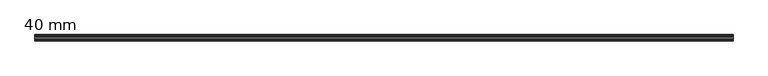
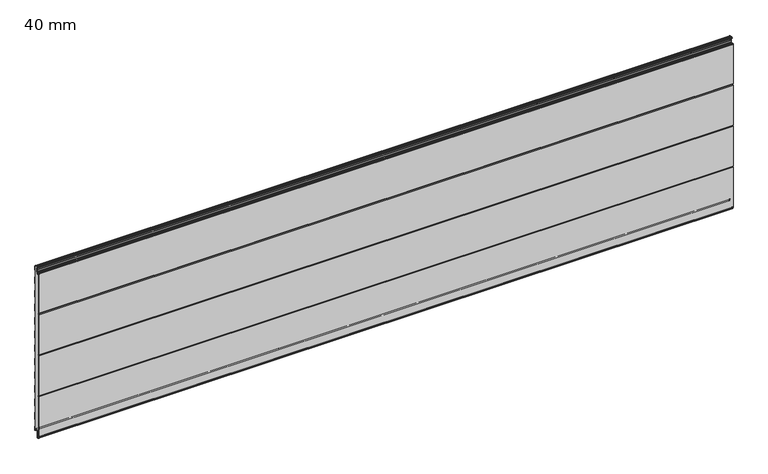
"""IFC4 building model written with IfcOpenShell, lengths in millimetres: plate geometry, HIANSA PANEL - H20.F02.003-PANELES DE FACHADA HORIZONTAL - PANEL SEMILISO - Panel de Muro Cortina : 40 mm."""

from ifc_helpers import new_model, si_unit, point, frame, frame_2d, origin, place, context, project, spatial, polyline, circle_curve, trimmed, segment, composite_curve, outline, extrude, source, transform, mapped, element, save


def plate_40_mm_44f672c6(model_context):
    return source(origin(), model_context, "Body", "SweptSolid", [
        extrude(outline(polyline([(-23.7988607, 1122.7800953), (-23.0080812, 1123.2810465), (-13.7002601, 1123.2810465), (-12.8994274, 1122.7800953), (-23.7988607, 1122.7800953)])), frame((-2200.0, 0.0, 0.0), z_axis=(1.0, 0.0, 0.0), x_axis=(0.0, 1.0, 0.0)), (0.0, 0.0, 1.0), 4400.0),
        extrude(outline(polyline([(-23.7713844, 25.3200953), (-12.9220626, 25.3200953), (-13.7002597, 24.8210465), (-23.011032, 24.8210465), (-23.7713844, 25.3200953)])), frame((-2200.0, 0.0, 0.0), z_axis=(1.0, 0.0, 0.0), x_axis=(0.0, 1.0, 0.0)), (0.0, 0.0, 1.0), 4400.0),
        extrude(outline(composite_curve([segment(polyline([(-39.9990488, 261.2060325), (-38.4829198, 265.1645587), (-39.9990488, 269.1230849), (-39.9990488, 536.2060325), (-38.4829198, 540.1645587), (-39.9990488, 544.1230849), (-39.9990488, 811.2060325), (-38.4829198, 815.1645587), (-39.9990488, 819.1230849), (-39.9990488, 1086.1667807), (-39.3593999, 1088.7253764)]), True, "CONTINUOUS"), segment(trimmed(circle_curve(frame_2d((-37.5161291, 1088.2645587)), 1.9), [point((-39.3593999, 1088.7253764))], [point((-37.5161291, 1090.1645587))], False, "CARTESIAN"), True, "CONTINUOUS"), segment(polyline([(-37.5161291, 1090.1645587), (-35.3767084, 1090.1645587)]), True, "CONTINUOUS"), segment(trimmed(circle_curve(frame_2d((-35.3767084, 1089.1645587)), 1.0), [point((-35.3767084, 1090.1645587))], [point((-34.3767084, 1089.1645587))], False, "CARTESIAN"), True, "CONTINUOUS"), segment(polyline([(-34.3767084, 1089.1645587), (-34.3767084, 1079.2490488)]), True, "CONTINUOUS"), segment(trimmed(circle_curve(frame_2d((-33.3767084, 1079.2490488)), 1.0), [point((-34.3767084, 1079.2490488))], [point((-33.3767084, 1078.2490488))], True, "CARTESIAN"), True, "CONTINUOUS"), segment(polyline([(-33.3767084, 1078.2490488), (-29.1267084, 1078.2490488)]), True, "CONTINUOUS"), segment(trimmed(circle_curve(frame_2d((-29.1267084, 1079.2490488)), 1.0), [point((-29.1267084, 1078.2490488))], [point((-28.1267084, 1079.2490488))], True, "CARTESIAN"), True, "CONTINUOUS"), segment(polyline([(-28.1267084, 1079.2490488), (-28.1267084, 1082.1003519)]), True, "CONTINUOUS"), segment(trimmed(circle_curve(frame_2d((-26.1267084, 1082.1003519)), 2.0), [point((-28.1267084, 1082.1003519))], [point((-27.2738613, 1083.738656))], False, "CARTESIAN"), True, "CONTINUOUS"), segment(polyline([(-27.2738613, 1083.738656), (-21.2163437, 1087.9801754)]), True, "CONTINUOUS"), segment(trimmed(circle_curve(frame_2d((-22.0767084, 1089.2089035)), 1.5), [point((-21.2163437, 1087.9801754))], [point((-20.5767084, 1089.2089035))], True, "CARTESIAN"), True, "CONTINUOUS"), segment(polyline([(-20.5767084, 1089.2089035), (-20.5767084, 1098.4402031), (-19.6767084, 1099.9990488), (-20.5767084, 1101.5578945), (-20.5767084, 1110.7891941)]), True, "CONTINUOUS"), segment(trimmed(circle_curve(frame_2d((-22.0767084, 1110.7891941)), 1.5), [point((-20.5767084, 1110.7891941))], [point((-21.2163437, 1112.0179221))], True, "CARTESIAN"), True, "CONTINUOUS"), segment(polyline([(-21.2163437, 1112.0179221), (-27.2738613, 1116.2594416)]), True, "CONTINUOUS"), segment(trimmed(circle_curve(frame_2d((-26.1267084, 1117.8977457)), 2.0), [point((-27.2738613, 1116.2594416))], [point((-28.1267084, 1117.8977457))], False, "CARTESIAN"), True, "CONTINUOUS"), segment(polyline([(-28.1267084, 1117.8977457), (-28.1267084, 1121.2800953)]), True, "CONTINUOUS"), segment(trimmed(circle_curve(frame_2d((-26.1267084, 1121.2800953)), 2.0), [point((-28.1267084, 1121.2800953))], [point((-26.1267084, 1123.2800953))], False, "CARTESIAN"), True, "CONTINUOUS"), segment(polyline([(-26.1267084, 1123.2800953), (-23.0095828, 1123.2800953), (-23.7988607, 1122.7800953), (-26.1267084, 1122.7800953)]), True, "CONTINUOUS"), segment(trimmed(circle_curve(frame_2d((-26.1267084, 1121.2800953)), 1.5), [point((-26.1267084, 1122.7800953))], [point((-27.6267084, 1121.2800953))], True, "CARTESIAN"), True, "CONTINUOUS"), segment(polyline([(-27.6267084, 1121.2800953), (-27.6267084, 1117.8977457)]), True, "CONTINUOUS"), segment(trimmed(circle_curve(frame_2d((-26.1267084, 1117.8977457)), 1.5), [point((-27.6267084, 1117.8977457))], [point((-26.987073, 1116.6690176))], True, "CARTESIAN"), True, "CONTINUOUS"), segment(polyline([(-26.987073, 1116.6690176), (-20.9295555, 1112.4274982)]), True, "CONTINUOUS"), segment(trimmed(circle_curve(frame_2d((-22.0767084, 1110.7891941)), 2.0), [point((-20.9295555, 1112.4274982))], [point((-20.0767084, 1110.7891941))], False, "CARTESIAN"), True, "CONTINUOUS"), segment(polyline([(-20.0767084, 1110.7891941), (-20.0767084, 1101.6918691), (-19.3880333, 1100.4990488)]), True, "CONTINUOUS"), segment(trimmed(circle_curve(frame_2d((-20.2540587, 1099.9990488)), 1.0), [point((-19.3880333, 1100.4990488))], [point((-19.3880333, 1099.4990488))], False, "CARTESIAN"), True, "CONTINUOUS"), segment(polyline([(-19.3880333, 1099.4990488), (-20.0767084, 1098.3062285), (-20.0767084, 1089.2089035)]), True, "CONTINUOUS"), segment(trimmed(circle_curve(frame_2d((-22.0767084, 1089.2089035)), 2.0), [point((-20.0767084, 1089.2089035))], [point((-20.9295555, 1087.5705994))], False, "CARTESIAN"), True, "CONTINUOUS"), segment(polyline([(-20.9295555, 1087.5705994), (-26.987073, 1083.32908)]), True, "CONTINUOUS"), segment(trimmed(circle_curve(frame_2d((-26.1267084, 1082.1003519)), 1.5), [point((-26.987073, 1083.32908))], [point((-27.6267084, 1082.1003519))], True, "CARTESIAN"), True, "CONTINUOUS"), segment(polyline([(-27.6267084, 1082.1003519), (-27.6267084, 1079.2490488)]), True, "CONTINUOUS"), segment(trimmed(circle_curve(frame_2d((-29.1267084, 1079.2490488)), 1.5), [point((-27.6267084, 1079.2490488))], [point((-29.1267084, 1077.7490488))], False, "CARTESIAN"), True, "CONTINUOUS"), segment(polyline([(-29.1267084, 1077.7490488), (-33.3767084, 1077.7490488)]), True, "CONTINUOUS"), segment(trimmed(circle_curve(frame_2d((-33.3767084, 1079.2490488)), 1.5), [point((-33.3767084, 1077.7490488))], [point((-34.8767084, 1079.2490488))], False, "CARTESIAN"), True, "CONTINUOUS"), segment(polyline([(-34.8767084, 1079.2490488), (-34.8767084, 1089.6645587), (-37.5161291, 1089.6645587)]), True, "CONTINUOUS"), segment(trimmed(circle_curve(frame_2d((-37.5161291, 1088.2645587)), 1.4), [point((-37.5161291, 1089.6645587))], [point((-38.8743286, 1088.6041086))], True, "CARTESIAN"), True, "CONTINUOUS"), segment(polyline([(-38.8743286, 1088.6041086), (-39.4990488, 1086.1052279), (-39.4990488, 819.2053746), (-37.9514025, 815.1645587), (-39.4990488, 811.1237428), (-39.4990488, 544.2053746), (-37.9514025, 540.1645587), (-39.4990488, 536.1237428), (-39.4990488, 269.2053746), (-37.9514025, 265.1645587), (-39.4990488, 261.1237428), (-39.4990488, -5.7761105), (-38.8741312, -8.2757808)]), True, "CONTINUOUS"), segment(trimmed(circle_curve(frame_2d((-37.5169431, -7.9364838)), 1.3989577), [point((-38.8741312, -8.2757808))], [point((-37.5169431, -9.3354415))], True, "CARTESIAN"), True, "CONTINUOUS"), segment(polyline([(-37.5169431, -9.3354415), (-35.1267084, -9.3354413)]), True, "CONTINUOUS"), segment(trimmed(circle_curve(frame_2d((-35.1267084, -10.8354413)), 1.5), [point((-35.1267084, -9.3354413))], [point((-33.6267084, -10.8354413))], False, "CARTESIAN"), True, "CONTINUOUS"), segment(polyline([(-33.6267084, -10.8354413), (-33.6267084, -20.7509512), (-28.8767084, -20.7509512), (-28.8767084, 22.7800953)]), True, "CONTINUOUS"), segment(trimmed(circle_curve(frame_2d((-26.3367084, 22.7800953)), 2.54), [point((-28.8767084, 22.7800953))], [point((-26.3367084, 25.3200953))], False, "CARTESIAN"), True, "CONTINUOUS"), segment(polyline([(-26.3367084, 25.3200953), (-23.7713844, 25.3200953), (-23.0095828, 24.8200953), (-26.3367084, 24.8200953)]), True, "CONTINUOUS"), segment(trimmed(circle_curve(frame_2d((-26.3367084, 22.7800953)), 2.04), [point((-26.3367084, 24.8200953))], [point((-28.3767084, 22.7800953))], True, "CARTESIAN"), True, "CONTINUOUS"), segment(polyline([(-28.3767084, 22.7800953), (-28.3767084, -20.2509512)]), True, "CONTINUOUS"), segment(trimmed(circle_curve(frame_2d((-29.3767084, -20.2509512)), 1.0), [point((-28.3767084, -20.2509512))], [point((-29.3767084, -21.2509512))], False, "CARTESIAN"), True, "CONTINUOUS"), segment(polyline([(-29.3767084, -21.2509512), (-33.1267084, -21.2509512)]), True, "CONTINUOUS"), segment(trimmed(circle_curve(frame_2d((-33.1267084, -20.2509512)), 1.0), [point((-33.1267084, -21.2509512))], [point((-34.1267084, -20.2509512))], False, "CARTESIAN"), True, "CONTINUOUS"), segment(polyline([(-34.1267084, -20.2509512), (-34.1267084, -10.8354413)]), True, "CONTINUOUS"), segment(trimmed(circle_curve(frame_2d((-35.1267084, -10.8354413)), 1.0), [point((-34.1267084, -10.8354413))], [point((-35.1267084, -9.8354413))], True, "CARTESIAN"), True, "CONTINUOUS"), segment(polyline([(-35.1267084, -9.8354413), (-37.5161291, -9.8354413)]), True, "CONTINUOUS"), segment(trimmed(circle_curve(frame_2d((-37.5161291, -7.9354413)), 1.9), [point((-37.5161291, -9.8354413))], [point((-39.3593999, -8.396259))], False, "CARTESIAN"), True, "CONTINUOUS"), segment(polyline([(-39.3593999, -8.396259), (-39.9990488, -5.8376633), (-39.9990488, 261.2060325)]), True, "CONTINUOUS")], self_intersect=False)), frame((-2200.0, 0.0, 0.0), z_axis=(1.0, 0.0, 0.0), x_axis=(0.0, 1.0, 0.0)), (0.0, 0.0, 1.0), 4400.0),
        extrude(outline(composite_curve([segment(polyline([(-39.4927405, -5.8041988), (-39.4927405, 261.1436493), (-37.9523542, 265.16551), (-39.5000005, 269.2063259), (-39.5000005, 536.1246941), (-37.9523542, 540.16551), (-39.5000005, 544.2063259), (-39.5000005, 811.1246941), (-37.9523542, 815.16551), (-39.4927405, 819.1873707), (-39.4927405, 1086.1352189), (-38.8752803, 1088.6050599)]), True, "CONTINUOUS"), segment(trimmed(circle_curve(frame_2d((-37.5170808, 1088.26551)), 1.4), [point((-38.8752803, 1088.6050599))], [point((-37.5170808, 1089.66551))], False, "CARTESIAN"), True, "CONTINUOUS"), segment(polyline([(-37.5170808, 1089.66551), (-34.8776601, 1089.66551), (-34.8776601, 1079.2500001)]), True, "CONTINUOUS"), segment(trimmed(circle_curve(frame_2d((-33.3776601, 1079.2500001)), 1.5), [point((-34.8776601, 1079.2500001))], [point((-33.3776601, 1077.7500001))], True, "CARTESIAN"), True, "CONTINUOUS"), segment(polyline([(-33.3776601, 1077.7500001), (-29.1276601, 1077.7500001)]), True, "CONTINUOUS"), segment(trimmed(circle_curve(frame_2d((-29.1276601, 1079.2500001)), 1.5), [point((-29.1276601, 1077.7500001))], [point((-27.6276601, 1079.2500001))], True, "CARTESIAN"), True, "CONTINUOUS"), segment(polyline([(-27.6276601, 1079.2500001), (-27.6276601, 1082.1013032)]), True, "CONTINUOUS"), segment(trimmed(circle_curve(frame_2d((-26.1276601, 1082.1013032)), 1.5), [point((-27.6276601, 1082.1013032))], [point((-26.9880247, 1083.3300313))], False, "CARTESIAN"), True, "CONTINUOUS"), segment(polyline([(-26.9880247, 1083.3300313), (-20.9305072, 1087.5715507)]), True, "CONTINUOUS"), segment(trimmed(circle_curve(frame_2d((-22.0776601, 1089.2098548)), 2.0), [point((-20.9305072, 1087.5715507))], [point((-20.0776601, 1089.2098548))], True, "CARTESIAN"), True, "CONTINUOUS"), segment(polyline([(-20.0776601, 1089.2098548), (-20.0776601, 1098.3071798), (-19.3889849, 1099.5000001)]), True, "CONTINUOUS"), segment(trimmed(circle_curve(frame_2d((-20.2550103, 1100.0000001)), 1.0), [point((-19.3889849, 1099.5000001))], [point((-19.3889849, 1100.5000001))], True, "CARTESIAN"), True, "CONTINUOUS"), segment(polyline([(-19.3889849, 1100.5000001), (-20.0776601, 1101.6928204), (-20.0776601, 1110.7901454)]), True, "CONTINUOUS"), segment(trimmed(circle_curve(frame_2d((-22.0776601, 1110.7901454)), 2.0), [point((-20.0776601, 1110.7901454))], [point((-20.9305072, 1112.4284495))], True, "CARTESIAN"), True, "CONTINUOUS"), segment(polyline([(-20.9305072, 1112.4284495), (-26.9880247, 1116.6699689)]), True, "CONTINUOUS"), segment(trimmed(circle_curve(frame_2d((-26.1276601, 1117.898697)), 1.5), [point((-26.9880247, 1116.6699689))], [point((-27.6276601, 1117.898697))], False, "CARTESIAN"), True, "CONTINUOUS"), segment(polyline([(-27.6276601, 1117.898697), (-27.6276601, 1121.2810466)]), True, "CONTINUOUS"), segment(trimmed(circle_curve(frame_2d((-26.1276601, 1121.2810466)), 1.5), [point((-27.6276601, 1121.2810466))], [point((-26.1276601, 1122.7810466))], False, "CARTESIAN"), True, "CONTINUOUS"), segment(polyline([(-26.1276601, 1122.7810466), (-7.7500005, 1122.7810466)]), True, "CONTINUOUS"), segment(trimmed(circle_curve(frame_2d((-7.7500005, 1121.7810466)), 1.0), [point((-7.7500005, 1122.7810466))], [point((-6.7500005, 1121.7810466))], False, "CARTESIAN"), True, "CONTINUOUS"), segment(polyline([(-6.7500005, 1121.7810466), (-6.7500005, 1115.631732)]), True, "CONTINUOUS"), segment(trimmed(circle_curve(frame_2d((-4.7460005, 1115.631732)), 2.004), [point((-6.7500005, 1115.631732))], [point((-4.7460005, 1113.627732))], True, "CARTESIAN"), True, "CONTINUOUS"), segment(polyline([(-4.7460005, 1113.627732), (-1.5, 1113.627732)]), True, "CONTINUOUS"), segment(trimmed(circle_curve(frame_2d((-1.5, 1112.627732)), 1.0), [point((-1.5, 1113.627732))], [point((-0.5, 1112.627732))], False, "CARTESIAN"), True, "CONTINUOUS"), segment(polyline([(-0.5, 1112.627732), (-0.5, 1087.7488722), (-1.5000005, 1084.7488708), (-1.5000005, 1044.5865932), (-0.5000005, 1041.5865932), (-0.5000005, 996.7488708), (-1.5000005, 993.7488708), (-1.5000005, 953.5865932), (-0.5000005, 950.5865932), (-0.5000005, 905.7488708), (-1.5000005, 902.7488708), (-1.5000005, 862.5865932), (-0.5000005, 859.5865932), (-0.5000005, 814.7488708), (-1.5000005, 811.7488708), (-1.5000005, 771.5865932), (-0.5000005, 768.5865932), (-0.5000005, 723.7488708), (-1.5000005, 720.7488708), (-1.5000005, 680.5865932), (-0.5000005, 677.5865932), (-0.5000005, 632.7488708), (-1.5000005, 629.7488708), (-1.5000005, 589.5865932), (-0.5000005, 586.5865932), (-0.5000005, 541.7488708), (-1.5000005, 538.7488708), (-1.5000005, 498.5865932), (-0.5000005, 495.5865932), (-0.5000005, 450.7488708), (-1.5000005, 447.7488708), (-1.5000005, 407.5865932), (-0.5000005, 404.5865932), (-0.5000005, 359.7488708), (-1.5000005, 356.7488708), (-1.5000005, 316.5865932), (-0.5000005, 313.5865932), (-0.5000005, 268.7488708), (-1.5000005, 265.7488708), (-1.5000005, 225.5865932), (-0.5000005, 222.5865932), (-0.5000005, 177.7488708), (-1.5000005, 174.7488708), (-1.5000005, 134.5865932), (-0.5000005, 131.5865932), (-0.5000005, 86.7488708), (-1.5000005, 83.7488708), (-1.5000005, 43.5865932), (-0.5, 40.5865932), (-0.5, 15.6677319)]), True, "CONTINUOUS"), segment(trimmed(circle_curve(frame_2d((-1.4999997, 15.6677319)), 0.9999997), [point((-0.5, 15.6677319))], [point((-1.4999977, 14.6677322))], False, "CARTESIAN"), True, "CONTINUOUS"), segment(polyline([(-1.4999977, 14.6677322), (-4.4999978, 14.6677261)]), True, "CONTINUOUS"), segment(trimmed(circle_curve(frame_2d((-4.4999998, 15.6677321)), 1.0000061), [point((-4.4999978, 14.6677261))], [point((-5.5000059, 15.6677321))], False, "CARTESIAN"), True, "CONTINUOUS"), segment(polyline([(-5.5000059, 15.6677321), (-5.5000059, 23.2810466)]), True, "CONTINUOUS"), segment(trimmed(circle_curve(frame_2d((-7.540006, 23.2810466)), 2.0400002), [point((-5.5000059, 23.2810466))], [point((-7.540006, 25.3210467))], True, "CARTESIAN"), True, "CONTINUOUS"), segment(polyline([(-7.540006, 25.3210467), (-26.3376599, 25.3210467)]), True, "CONTINUOUS"), segment(trimmed(circle_curve(frame_2d((-26.3376599, 22.7810466)), 2.5400001), [point((-26.3376599, 25.3210467))], [point((-28.8776601, 22.7810466))], True, "CARTESIAN"), True, "CONTINUOUS"), segment(polyline([(-28.8776601, 22.7810466), (-28.8776601, -20.7499999), (-33.6276601, -20.7499999), (-33.6276601, -10.83449)]), True, "CONTINUOUS"), segment(trimmed(circle_curve(frame_2d((-35.1276601, -10.83449)), 1.5), [point((-33.6276601, -10.83449))], [point((-35.1276601, -9.33449))], True, "CARTESIAN"), True, "CONTINUOUS"), segment(polyline([(-35.1276601, -9.33449), (-37.5178947, -9.33449)]), True, "CONTINUOUS"), segment(trimmed(circle_curve(frame_2d((-37.5178947, -7.9355324)), 1.3989576), [point((-37.5178947, -9.33449))], [point((-38.8750829, -8.2748295))], False, "CARTESIAN"), True, "CONTINUOUS"), segment(polyline([(-38.8750829, -8.2748295), (-39.4927405, -5.8041988)]), True, "CONTINUOUS")], self_intersect=False)), frame((-2200.0, 0.0, 0.0), z_axis=(1.0, 0.0, 0.0), x_axis=(0.0, 1.0, 0.0)), (0.0, 0.0, 1.0), 4400.0),
        extrude(outline(composite_curve([segment(polyline([(-13.7002597, 24.8210465), (-12.9205793, 25.3210465), (-7.5400057, 25.3210465)]), True, "CONTINUOUS"), segment(trimmed(circle_curve(frame_2d((-7.5400057, 23.2810465)), 2.04), [point((-7.5400057, 25.3210465))], [point((-5.5000057, 23.2810465))], False, "CARTESIAN"), True, "CONTINUOUS"), segment(polyline([(-5.5000057, 23.2810465), (-5.5000057, 15.6677319)]), True, "CONTINUOUS"), segment(trimmed(circle_curve(frame_2d((-4.5, 15.6677319)), 1.0000057), [point((-5.5000057, 15.6677319))], [point((-4.4999981, 14.6677262))], True, "CARTESIAN"), True, "CONTINUOUS"), segment(polyline([(-4.4999981, 14.6677262), (-1.4999981, 14.6677319)]), True, "CONTINUOUS"), segment(trimmed(circle_curve(frame_2d((-1.5, 15.6677319)), 1.0), [point((-1.4999981, 14.6677319))], [point((-0.5, 15.6677319))], True, "CARTESIAN"), True, "CONTINUOUS"), segment(polyline([(-0.5, 15.6677319), (-0.5, 40.5865931), (-1.5, 43.5865931), (-1.5, 83.7488708), (-0.5, 86.7488708), (-0.5, 131.5865931), (-1.5, 134.5865931), (-1.5, 174.7488708), (-0.5, 177.7488708), (-0.5, 222.5865931), (-1.5, 225.5865931), (-1.5, 265.7488708), (-0.5, 268.7488708), (-0.5, 313.5865931), (-1.5, 316.5865931), (-1.5, 356.7488708), (-0.5, 359.7488708), (-0.5, 404.5865931), (-1.5, 407.5865931), (-1.5, 447.7488708), (-0.5, 450.7488708), (-0.5, 495.5865931), (-1.5, 498.5865931), (-1.5, 538.7488708), (-0.5, 541.7488708), (-0.5, 586.5865931), (-1.5, 589.5865931), (-1.5, 629.7488708), (-0.5, 632.7488708), (-0.5, 677.5865931), (-1.5, 680.5865931), (-1.5, 720.7488708), (-0.5, 723.7488708), (-0.5, 768.5865931), (-1.5, 771.5865931), (-1.5, 811.7488708), (-0.5, 814.7488708), (-0.5, 859.5865931), (-1.5, 862.5865931), (-1.5, 902.7488708), (-0.5, 905.7488708), (-0.5, 950.5865931), (-1.5, 953.5865931), (-1.5, 993.7488708), (-0.5, 996.7488708), (-0.5, 1041.5865931), (-1.5, 1044.5865931), (-1.5, 1084.7488708), (-0.5, 1087.7488708), (-0.5, 1112.6277319)]), True, "CONTINUOUS"), segment(trimmed(circle_curve(frame_2d((-1.5, 1112.6277319)), 1.0), [point((-0.5, 1112.6277319))], [point((-1.5, 1113.6277319))], True, "CARTESIAN"), True, "CONTINUOUS"), segment(polyline([(-1.5, 1113.6277319), (-4.746, 1113.6277319)]), True, "CONTINUOUS"), segment(trimmed(circle_curve(frame_2d((-4.746, 1115.6317319)), 2.004), [point((-4.746, 1113.6277319))], [point((-6.75, 1115.6317319))], False, "CARTESIAN"), True, "CONTINUOUS"), segment(polyline([(-6.75, 1115.6317319), (-6.75, 1121.7810465)]), True, "CONTINUOUS"), segment(trimmed(circle_curve(frame_2d((-7.75, 1121.7810465)), 1.0), [point((-6.75, 1121.7810465))], [point((-7.75, 1122.7810465))], True, "CARTESIAN"), True, "CONTINUOUS"), segment(polyline([(-7.75, 1122.7810465), (-12.9009477, 1122.7810465), (-13.7002597, 1123.2810465), (-7.7500057, 1123.2810465)]), True, "CONTINUOUS"), segment(trimmed(circle_curve(frame_2d((-7.7500057, 1121.7810465)), 1.5), [point((-7.7500057, 1123.2810465))], [point((-6.2500057, 1121.7810465))], False, "CARTESIAN"), True, "CONTINUOUS"), segment(polyline([(-6.2500057, 1121.7810465), (-6.2500057, 1115.631727)]), True, "CONTINUOUS"), segment(trimmed(circle_curve(frame_2d((-4.7460057, 1115.631727)), 1.504), [point((-6.2500057, 1115.631727))], [point((-4.7460034, 1114.127727))], True, "CARTESIAN"), True, "CONTINUOUS"), segment(polyline([(-4.7460034, 1114.127727), (-1.5000023, 1114.1277319)]), True, "CONTINUOUS"), segment(trimmed(circle_curve(frame_2d((-1.5, 1112.6277319)), 1.5), [point((-1.5000023, 1114.1277319))], [point((0.0, 1112.6277319))], False, "CARTESIAN"), True, "CONTINUOUS"), segment(polyline([(0.0, 1112.6277319), (0.0, 1087.6677319), (-1.0, 1084.6677319), (-1.0, 1044.6677319), (0.0, 1041.6677319), (0.0, 996.6677319), (-1.0, 993.6677319), (-1.0, 953.6677319), (0.0, 950.6677319), (0.0, 905.6677319), (-1.0, 902.6677319), (-1.0, 862.6677319), (0.0, 859.6677319), (0.0, 814.6677319), (-1.0, 811.6677319), (-1.0, 771.6677319), (0.0, 768.6677319), (0.0, 723.6677319), (-1.0, 720.6677319), (-1.0, 680.6677319), (0.0, 677.6677319), (0.0, 632.6677319), (-1.0, 629.6677319), (-1.0, 589.6677319), (0.0, 586.6677319), (0.0, 541.6677319), (-1.0, 538.6677319), (-1.0, 498.6677319), (0.0, 495.6677319), (0.0, 450.6677319), (-1.0, 447.6677319), (-1.0, 407.6677319), (0.0, 404.6677319), (0.0, 359.6677319), (-1.0, 356.6677319), (-1.0, 316.6677319), (0.0, 313.6677319), (0.0, 268.6677319), (-1.0, 265.6677319), (-1.0, 225.6677319), (0.0, 222.6677319), (0.0, 177.6677319), (-1.0, 174.6677319), (-1.0, 134.6677319), (0.0, 131.6677319), (0.0, 86.6677319), (-1.0, 83.6677319), (-1.0, 43.6677319), (0.0, 40.6677319), (0.0, 15.6677319)]), True, "CONTINUOUS"), segment(trimmed(circle_curve(frame_2d((-1.5, 15.6677319)), 1.5), [point((0.0, 15.6677319))], [point((-1.5, 14.1677319))], False, "CARTESIAN"), True, "CONTINUOUS"), segment(polyline([(-1.5, 14.1677319), (-4.5, 14.1677319)]), True, "CONTINUOUS"), segment(trimmed(circle_curve(frame_2d((-4.5, 15.6677319)), 1.5), [point((-4.5, 14.1677319))], [point((-6.0, 15.6677319))], False, "CARTESIAN"), True, "CONTINUOUS"), segment(polyline([(-6.0, 15.6677319), (-6.0, 23.2810465)]), True, "CONTINUOUS"), segment(trimmed(circle_curve(frame_2d((-7.54, 23.2810465)), 1.54), [point((-6.0, 23.2810465))], [point((-7.54, 24.8210465))], True, "CARTESIAN"), True, "CONTINUOUS"), segment(polyline([(-7.54, 24.8210465), (-13.7002597, 24.8210465)]), True, "CONTINUOUS")], self_intersect=False)), frame((-2200.0, 0.0, 0.0), z_axis=(1.0, 0.0, 0.0), x_axis=(0.0, 1.0, 0.0)), (0.0, 0.0, 1.0), 4400.0),
    ])


if __name__ == "__main__":
    model = new_model("IFC4")
    model_context = context("Model", 3, world=origin())
    ifc_project = project(units=[si_unit("LENGTHUNIT", "METRE", prefix="MILLI")], contexts=[model_context])
    site = spatial("IfcSite", under=ifc_project)
    building = spatial("IfcBuilding", under=site)
    placement = place(None, origin())
    plate_40_mm_shape = plate_40_mm_44f672c6(model_context)
    element("IfcPlate", 1, ObjectType="HIANSA PANEL - H20.F02.003-PANELES DE FACHADA HORIZONTAL - PANEL SEMILISO - Panel de Muro Cortina : 40 mm", at=placement, inside=building, context=model_context, shape_type="MappedRepresentation", body=[
        mapped(plate_40_mm_shape, transform((0.0, 0.0, 0.0), x_axis=(1.0, 0.0, 0.0), y_axis=(0.0, 1.0, 0.0), z_axis=(0.0, 0.0, 1.0))),
    ])
    save(model, "model.ifc")
